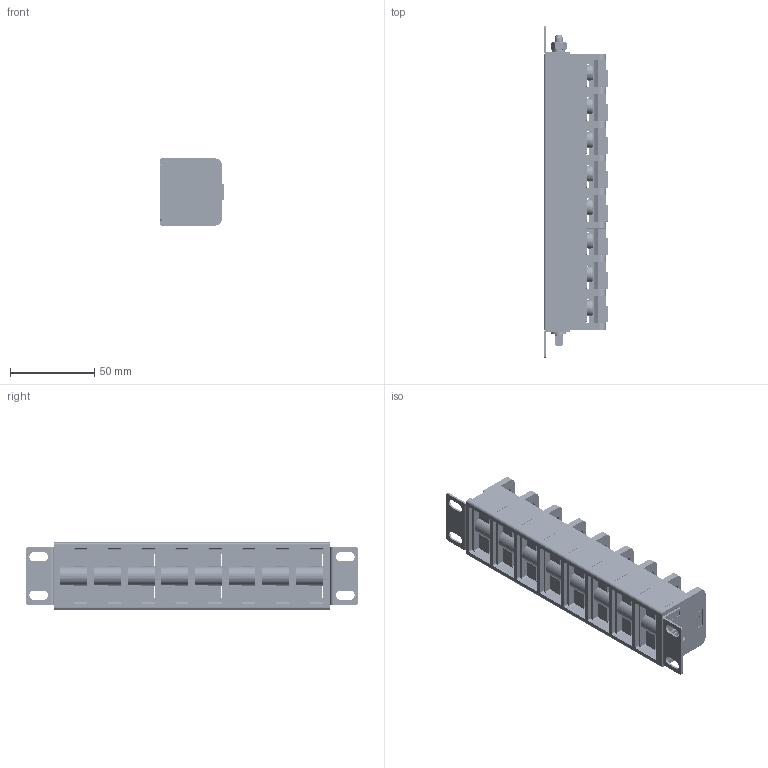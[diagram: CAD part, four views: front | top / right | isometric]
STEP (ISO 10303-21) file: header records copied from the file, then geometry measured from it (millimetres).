
FILE_DESCRIPTION(('STEP AP214'), '1');
FILE_NAME('ÁÇÍ28-16Ï63 (8 êëåìì â áëîêå)', '2024-03-18T11:24:58', (''), (''), 'ASCON STEP Converter 1.6', 'ASCON Math Kernel', '');
FILE_SCHEMA(('AUTOMOTIVE_DESIGN { 1 0 10303 214 3 1 1}'));
Length unit declared in the file: millimetre
Bounding box: 38.5 x 197.5 x 40 mm (x, y, z)
Volume: 109814.7 mm3; surface area: 83061.2 mm2
Topology: 1 solids, 1 shells, 10878 faces, 31171 edges, 20708 vertices
Faces by surface type: cylinder 6969, plane 3871, cone 22, torus 16
Full cylindrical faces by diameter (mm): 5 x18, 5.3 x1, 5.5 x11, 7.5 x8, 9 x17, 11.5 x18
Entity records: 450578 total; most frequent: DIRECTION 66860, CARTESIAN_POINT 65073, ORIENTED_EDGE 62124, EDGE_CURVE 31062, AXIS2_PLACEMENT_3D 25003, VERTEX_POINT 20708, LINE 16854, VECTOR 16854
